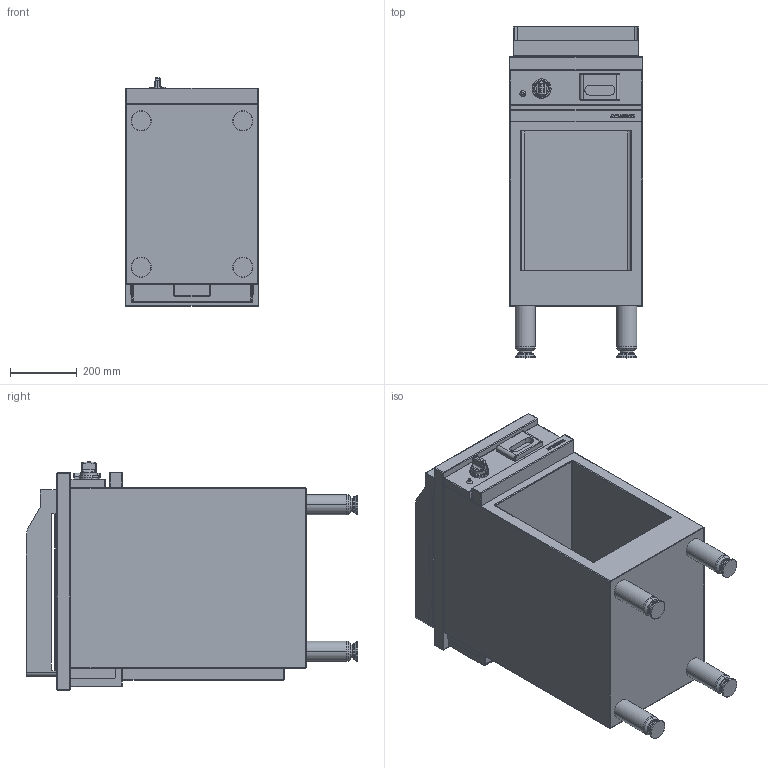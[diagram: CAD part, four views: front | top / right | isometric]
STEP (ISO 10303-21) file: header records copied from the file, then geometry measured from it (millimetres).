
FILE_DESCRIPTION((''),'2;1');
FILE_NAME('CMG410SLK_EXPORT_STEP_ASM','2017-11-22T',('r.avril'),(''),'PRO/ENGINEER BY PARAMETRIC TECHNOLOGY CORPORATION, 2014200','PRO/ENGINEER BY PARAMETRIC TECHNOLOGY CORPORATION, 2014200','');
FILE_SCHEMA(('AP203_CONFIGURATION_CONTROLLED_3D_DESIGN_OF_MECHANICAL_PARTS_AND_ASSEMBLIES_MIM_LF { 1 0 10303 403 2 1 2 }'));
Length unit declared in the file: millimetre
Products named in the file (11): MODULES_AMB_400_EXPORT_STEP; TABLE_410_GRILLADE; TABLE_410_GRILLADE_ASM; ALLUMEUR_EXPORT_STEP; TIROIR_GRILLADE_EXPORT_STEP; MANETTE_AMB_EXPORT_STEP; CEINTURE_PLAQUE_GRILLADE_400; 50288600; 50289100; 65070001_ASM; CMG410SLK_EXPORT_STEP_ASM
Assembly tree (10 placements, depth 3):
  CMG410SLK_EXPORT_STEP_ASM
    MODULES_AMB_400_EXPORT_STEP
    TABLE_410_GRILLADE_ASM
      TABLE_410_GRILLADE
    ALLUMEUR_EXPORT_STEP
    TIROIR_GRILLADE_EXPORT_STEP
    MANETTE_AMB_EXPORT_STEP
    65070001_ASM
      CEINTURE_PLAQUE_GRILLADE_400
      50288600
      50289100
Bounding box: 400 x 992.34 x 682.5 mm (x, y, z)
Volume: 59964853 mm3; surface area: 4660789.8 mm2
Topology: 15 solids, 40 shells, 539 faces, 1877 edges, 1642 vertices
Faces by surface type: cylinder 208, plane 191, cone 50, torus 40, sphere 38, bspline 12
Entity records: 27737 total; most frequent: CARTESIAN_POINT 6405, DIRECTION 3382, ORIENTED_EDGE 2760, EDGE_CURVE 1619, AXIS2_PLACEMENT_3D 1217, VERTEX_POINT 1158, VECTOR 915, LINE 915
